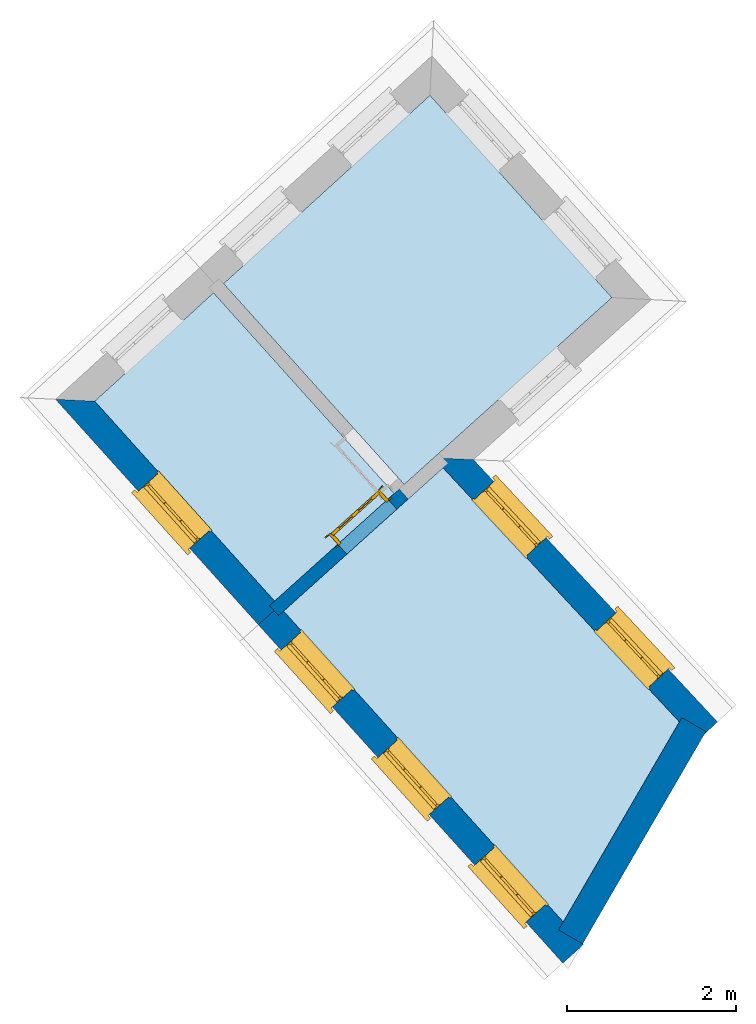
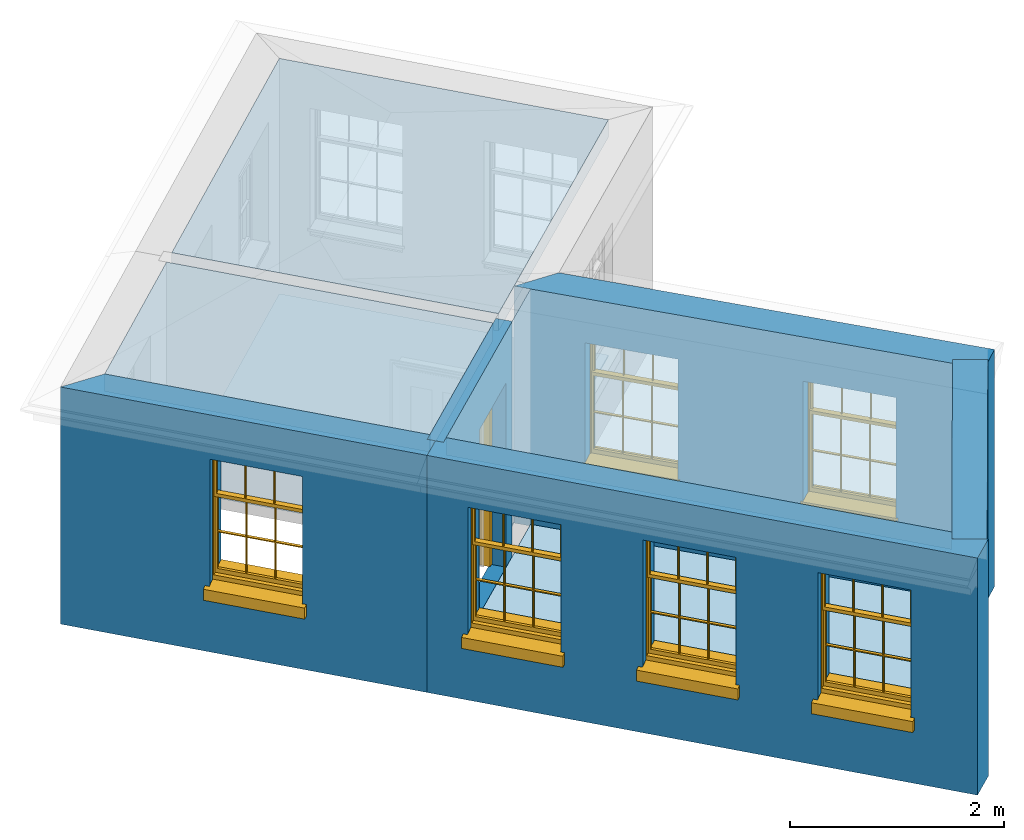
# One storey, part 1 of 3: 6 windows, 5 slabs, 5 walls, 1 door, 7 openings.
"""IFC4 building model written with IfcOpenShell, lengths in metres."""

from ifc_helpers import new_model, si_unit, frame, origin, origin_with_axes, place, context, subcontext, project, spatial, polyline, outline, extrude, faceted_brep, source, transform, mapped, material, layer, layer_set, layer_usage, type_object, type_shapes, element, fill, save


model = new_model("IFC4")

# Units and contexts
model_context = context("Model", 3, world=origin_with_axes())
body_context = subcontext(model_context, "Body", "Model", "MODEL_VIEW")
ifc_project = project(units=[si_unit("PLANEANGLEUNIT", "RADIAN"), si_unit("MASSUNIT", "GRAM", prefix="KILO"), si_unit("FORCEUNIT", "NEWTON", prefix="KILO"), si_unit("LENGTHUNIT", "METRE"), si_unit("AREAUNIT", "SQUARE_METRE"), si_unit("VOLUMEUNIT", "CUBIC_METRE")], contexts=[model_context, model_context])

# Sites, building, storey
site_1_placement = place(None, origin_with_axes())
site_1 = spatial("IfcSite", under=ifc_project, at=site_1_placement, Name="Tamar")
site_2_placement = place(site_1_placement, origin_with_axes())
site_2 = spatial("IfcSite", under=site_1, at=site_2_placement, Name="Site plot-7", CompositionType="ELEMENT")
building_placement = place(None, origin_with_axes())
building = spatial("IfcBuilding", under=site_2, at=building_placement, Name="Building plot-7", CompositionType="ELEMENT")
storey_placement = place(None, frame((0.0, 0.0, 31.85), z_axis=(0.0, 0.0, 1.0), x_axis=(1.0, 0.0, 0.0)))
storey = spatial("IfcBuildingStorey", under=building, at=storey_placement, Name="plot-7 2", CompositionType="ELEMENT", Elevation=31.85)

# Slabs
slab_1_placement = place(storey_placement, frame((241.718541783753, 284.757150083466, 2.5)))
element("IfcSlab", 1, at=slab_1_placement, inside=storey, Name="My Slab", ObjectType="Slab", PredefinedType="FLOOR", context=body_context, shape_type="SweptSolid", body=[
    extrude(outline(polyline([(0.0, 0.0), (1.41896853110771, 1.27668817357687), (-0.724110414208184, 3.6586022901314), (-2.13398761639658, 2.37180960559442), (0.0, 0.0)])), origin_with_axes(), (0.0, 0.0, 1.0), 0.2),
])
slab_2_placement = place(storey_placement, frame((245.14349583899, 280.950502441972, 2.5)))
element("IfcSlab", 2, at=slab_2_placement, inside=storey, Name="My Slab", ObjectType="Slab", PredefinedType="FLOOR", context=body_context, shape_type="SweptSolid", body=[
    extrude(outline(polyline([(0.0, 0.0), (1.37769853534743, 2.37319042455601), (-1.42731034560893, 5.38875801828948), (-3.31793745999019, 3.68770459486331), (0.0, 0.0)])), origin_with_axes(), (0.0, 0.0, 1.0), 0.2),
])
slab_3_placement = place(storey_placement, frame((245.14349583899, 280.950502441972, 0.0)))
element("IfcSlab", 3, at=slab_3_placement, inside=storey, Name="My Slab", ObjectType="Slab", PredefinedType="FLOOR", context=body_context, shape_type="SweptSolid", body=[
    extrude(outline(polyline([(0.0, 0.0), (1.37769853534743, 2.37319042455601), (-1.42731034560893, 5.38875801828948), (-3.31793745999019, 3.68770459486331), (0.0, 0.0)])), origin_with_axes(), (0.0, 0.0, 1.0), 0.02),
])
slab_4_placement = place(storey_placement, frame((243.256453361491, 286.14085485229, 2.5)))
element("IfcSlab", 4, at=slab_4_placement, inside=storey, Name="My Slab", ObjectType="Slab", PredefinedType="FLOOR", context=body_context, shape_type="SweptSolid", body=[
    extrude(outline(polyline([(0.0, 0.0), (2.46520785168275, 2.21802079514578), (0.30557225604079, 4.61833671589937), (-2.14384101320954, 2.3827611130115), (0.0, 0.0)])), origin_with_axes(), (0.0, 0.0, 1.0), 0.2),
])
slab_5_placement = place(storey_placement, frame((243.256453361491, 286.14085485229, 0.0)))
element("IfcSlab", 5, at=slab_5_placement, inside=storey, Name="My Slab", ObjectType="Slab", PredefinedType="FLOOR", context=body_context, shape_type="SweptSolid", body=[
    extrude(outline(polyline([(0.0, 0.0), (2.46520785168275, 2.21802079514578), (0.30557225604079, 4.61833671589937), (-2.14384101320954, 2.3827611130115), (0.0, 0.0)])), origin_with_axes(), (0.0, 0.0, 1.0), 0.02),
])

# Wall, openings, windows
ifc_material_1 = material(Name="Masonry")
ifc_layer_1 = layer(ifc_material_1, 0.33, ventilated=False)
ifc_layer_set_1 = layer_set([ifc_layer_1], Name="exterior_0.08_0.25")
ifc_layer_usage_1 = layer_usage(ifc_layer_set_1, "AXIS2", "POSITIVE", -0.25)
wall_type_1 = type_object("IfcWallType", Name="exterior_0.08_0.25", PredefinedType="SOLIDWALL", material=ifc_layer_set_1)
wall_1_placement = place(storey_placement, frame((246.620136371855, 283.334783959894, 0.0), z_axis=(0.0, 0.0, 1.0), x_axis=(-0.681081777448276, 0.732207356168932, 0.0)))
wall_1 = element("IfcWall", 6, at=wall_1_placement, inside=storey, type_object=wall_type_1, material=ifc_layer_usage_1, Name="exterior", context=body_context, shape_type="SweptSolid", body=[
    extrude(outline(polyline([(-0.250000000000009, 0.0799999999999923), (-0.249999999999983, -0.250000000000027), (4.00223478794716, -0.250000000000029), (4.33774979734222, 0.0799999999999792), (-0.250000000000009, 0.0799999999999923)])), origin_with_axes(), (0.0, 0.0, 1.0), 2.7),
])
opening_1_placement = place(wall_1_placement, frame((0.609103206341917, 0.0, 0.75)))
opening_1 = element("IfcOpeningElement", 7, at=opening_1_placement, cuts=wall_1, Name="My Opening", ObjectType="Opening", context=body_context, shape_type="SweptSolid", body=[
    extrude(outline(polyline([(0.0, -0.269999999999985), (0.910000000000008, -0.270000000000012), (0.909999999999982, 1.10000000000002), (-2.59792187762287e-14, 1.10000000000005), (0.0, -0.269999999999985)])), origin_with_axes(), (0.0, 0.0, 1.0), 1.445),
])
opening_2_placement = place(wall_1_placement, frame((2.73730961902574, 0.0, 0.75)))
opening_2 = element("IfcOpeningElement", 8, at=opening_2_placement, cuts=wall_1, Name="My Opening", ObjectType="Opening", context=body_context, shape_type="SweptSolid", body=[
    extrude(outline(polyline([(0.0, -0.270000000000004), (0.910000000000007, -0.270000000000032), (0.909999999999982, 1.1), (-2.57571741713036e-14, 1.10000000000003), (0.0, -0.270000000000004)])), origin_with_axes(), (0.0, 0.0, 1.0), 1.445),
])
window_type = type_object("IfcWindowType", Name="sash_shorter", PartitioningType="DOUBLE_PANEL_HORIZONTAL", PredefinedType="NOTDEFINED")
shared_shape_1 = source(origin(), body_context, "Body", "Brep", [
    faceted_brep([(0.876875, 0.145, 0.999097), (0.876875, 0.145, 1.411875), (0.9, 0.145, 1.435), (0.033125, 0.145, 1.411875), (0.033125, 0.145, 0.999097), (0.01, 0.145, 1.435), (0.033125, 0.115, 1.411875), (0.01, 0.115, 1.435), (0.033125, 0.115, 0.999097), (0.876875, 0.115, 1.411875), (0.876875, 0.115, 0.999097), (0.9, 0.115, 1.435), (0.033125, 0.145, 0.960972), (0.01, 0.145, 0.960972), (0.033125, 0.145, 0.548195), (0.876875, 0.145, 0.960972), (0.876875, 0.145, 0.548195), (0.9, 0.145, 0.960972), (0.876875, 0.145, 0.538195), (0.876875, 0.145, 0.125417), (0.9, 0.145, 0.077167), (0.033125, 0.145, 0.125417), (0.033125, 0.145, 0.538195), (0.01, 0.145, 0.077167), (0.9, 0.115, 0.960972), (0.01, 0.115, 0.960972), (-0.0425, 0.0, 0.01), (-0.0425, -0.05, 0.001667), (0.0, 0.0, 0.01), (0.9525, 0.0, 0.01), (0.91, 0.0, 0.01), (0.9525, -0.05, 0.001667), (-0.02, 0.33, 0.077167), (0.0, 0.33, 0.077167), (-0.02, 0.36, 0.077167), (0.0, 0.19, 0.077167), (0.01, 0.19, 0.077167), (0.91, 0.19, 0.077167), (0.91, 0.33, 0.077167), (0.9, 0.19, 0.077167), (0.93, 0.33, 0.077167), (0.93, 0.36, 0.077167), (0.01, 0.145, 0.999097), (0.01, 0.175, 0.999097), (0.9, 0.145, 0.999097), (0.9, 0.175, 0.999097), (0.876875, 0.175, 0.125417), (0.876875, 0.175, 0.538195), (0.9, 0.175, 0.077167), (0.876875, 0.175, 0.548195), (0.876875, 0.175, 0.960972), (0.033125, 0.175, 0.125417), (0.01, 0.175, 0.077167), (0.033125, 0.175, 0.538195), (0.033125, 0.175, 0.960972), (0.033125, 0.175, 0.548195), (-0.02, 0.33, 0.052167), (-0.02, 0.36, 0.052167), (0.93, 0.36, 0.052167), (0.93, 0.33, 0.052167), (0.91, 0.33, 0.052167), (0.0, 0.33, 0.052167), (0.91, 0.1, 0.026667), (0.0, 0.1, 0.026667), (-0.0425, -0.05, -0.123333), (0.9525, -0.05, -0.123333), (-0.0425, 0.0, -0.123333), (0.9525, 0.0, -0.123333), (0.01, 0.19, 1.435), (0.9, 0.19, 1.435), (0.0, 0.19, 1.445), (0.91, 0.19, 1.445), (0.01, 0.1, 0.077167), (0.9, 0.1, 0.077167), (0.592292, 0.145, 0.125417), (0.592292, 0.175, 0.125417), (0.317708, 0.175, 0.125417), (0.317708, 0.145, 0.125417), (0.592292, 0.145, 0.548195), (0.317708, 0.145, 0.548195), (0.317708, 0.145, 0.538195), (0.592292, 0.145, 0.538195), (0.592292, 0.175, 0.548195), (0.317708, 0.175, 0.548195), (0.602292, 0.175, 0.548195), (0.602292, 0.145, 0.548195), (0.317708, 0.175, 0.538195), (0.307708, 0.175, 0.125417), (0.307708, 0.175, 0.538195), (0.602292, 0.175, 0.538195), (0.602292, 0.175, 0.125417), (0.592292, 0.175, 0.538195), (0.307708, 0.175, 0.548195), (0.317708, 0.175, 0.960972), (0.307708, 0.175, 0.960972), (0.602292, 0.175, 0.960972), (0.592292, 0.175, 0.960972), (0.307708, 0.145, 0.538195), (0.307708, 0.145, 0.125417), (0.307708, 0.145, 0.548195), (0.307708, 0.145, 0.960972), (0.592292, 0.145, 0.960972), (0.317708, 0.145, 0.960972), (0.602292, 0.145, 0.960972), (0.602292, 0.145, 0.538195), (0.602292, 0.145, 0.125417), (0.317708, 0.115, 1.411875), (0.307708, 0.115, 1.411875), (0.307708, 0.115, 0.999097), (0.317708, 0.115, 0.999097), (0.602292, 0.115, 1.411875), (0.592292, 0.115, 1.411875), (0.592292, 0.115, 0.999097), (0.602292, 0.115, 0.999097), (0.317708, 0.145, 0.999097), (0.307708, 0.145, 0.999097), (0.307708, 0.145, 1.411875), (0.317708, 0.145, 1.411875), (0.602292, 0.145, 0.999097), (0.592292, 0.145, 0.999097), (0.592292, 0.145, 1.411875), (0.602292, 0.145, 1.411875), (0.91, 0.1, 1.445), (0.9, 0.1, 1.435), (0.01, 0.1, 1.435), (0.0, 0.1, 1.445), (0.91, 0.0, 0.0), (0.0, 0.0, 0.0), (0.91, 0.33, 0.0), (0.0, 0.33, 0.0)], [[[0, 1, 2]], [[3, 4, 5]], [[6, 7, 8]], [[9, 10, 11]], [[12, 13, 14]], [[15, 16, 17]], [[18, 19, 20]], [[21, 22, 23]], [[24, 15, 17]], [[13, 12, 25]], [[26, 27, 28]], [[29, 30, 31]], [[32, 33, 34]], [[35, 36, 33]], [[37, 38, 39]], [[40, 41, 38]], [[42, 4, 43]], [[44, 45, 0]], [[46, 47, 48]], [[49, 50, 45]], [[51, 52, 53]], [[54, 55, 43]], [[38, 33, 36, 39]], [[41, 34, 33, 38]], [[56, 32, 34, 57]], [[57, 34, 41, 58]], [[58, 41, 40, 59]], [[57, 58, 60, 61]], [[52, 48, 39, 36]], [[62, 63, 28, 30]], [[27, 31, 30, 28]], [[27, 64, 65, 31]], [[66, 67, 65, 64]], [[2, 5, 68, 69]], [[68, 70, 71, 69]], [[20, 23, 72, 73]], [[73, 72, 63, 62]], [[74, 75, 76, 77]], [[78, 79, 80, 81]], [[78, 82, 83, 79]], [[16, 49, 84, 85]], [[86, 76, 87, 88]], [[89, 90, 75, 91]], [[92, 88, 53, 55]], [[82, 91, 86, 83]], [[93, 83, 92, 94]], [[95, 84, 82, 96]], [[89, 84, 49, 47]], [[97, 88, 87, 98]], [[22, 53, 88, 97]], [[81, 91, 75, 74]], [[80, 86, 91, 81]], [[77, 76, 86, 80]], [[99, 92, 55, 14]], [[100, 94, 92, 99]], [[101, 96, 82, 78]], [[79, 83, 93, 102]], [[85, 84, 95, 103]], [[104, 89, 47, 18]], [[105, 90, 89, 104]], [[104, 18, 16, 85]], [[80, 97, 98, 77]], [[104, 81, 74, 105]], [[103, 101, 78, 85]], [[99, 14, 22, 97]], [[102, 100, 99, 79]], [[106, 107, 108, 109]], [[110, 111, 112, 113]], [[114, 115, 116, 117]], [[118, 119, 120, 121]], [[107, 116, 115, 108]], [[111, 120, 119, 112]], [[109, 114, 117, 106]], [[113, 118, 121, 110]], [[85, 78, 81, 104]], [[84, 89, 91, 82]], [[83, 86, 88, 92]], [[79, 99, 97, 80]], [[109, 112, 119, 114]], [[102, 93, 96, 101]], [[106, 117, 120, 111]], [[98, 87, 51, 21]], [[6, 3, 116, 107]], [[110, 121, 1, 9]], [[19, 46, 90, 105]], [[26, 66, 64, 27]], [[29, 31, 65, 67]], [[25, 24, 112, 109]], [[11, 7, 106, 111]], [[75, 48, 52, 76]], [[43, 45, 96, 93]], [[45, 43, 114, 119]], [[5, 2, 120, 117]], [[24, 25, 102, 101]], [[42, 5, 4]], [[2, 44, 0]], [[49, 45, 48, 47]], [[52, 43, 55, 53]], [[14, 13, 23, 22]], [[20, 17, 16, 18]], [[24, 11, 10]], [[25, 8, 7]], [[8, 4, 3, 6]], [[9, 1, 0, 10]], [[15, 50, 49, 16]], [[18, 47, 46, 19]], [[21, 51, 53, 22]], [[14, 55, 54, 12]], [[44, 2, 69, 45]], [[68, 5, 42, 43]], [[36, 35, 70, 68]], [[39, 69, 71, 37]], [[62, 122, 123, 73]], [[63, 72, 124, 125]], [[8, 108, 115, 4]], [[113, 10, 0, 118]], [[94, 100, 12, 54]], [[17, 20, 73, 24]], [[72, 23, 13, 25]], [[52, 36, 68, 43]], [[69, 39, 48, 45]], [[11, 24, 73, 123]], [[7, 124, 72, 25]], [[23, 77, 98]], [[98, 21, 23]], [[105, 74, 20]], [[20, 19, 105]], [[20, 74, 77, 23]], [[113, 112, 24]], [[24, 10, 113]], [[25, 109, 108]], [[108, 8, 25]], [[110, 9, 11]], [[11, 111, 110]], [[7, 6, 107]], [[107, 106, 7]], [[5, 117, 116]], [[116, 3, 5]], [[121, 120, 2]], [[2, 1, 121]], [[11, 123, 124, 7]], [[122, 125, 124, 123]], [[43, 93, 94]], [[94, 54, 43]], [[96, 45, 95]], [[50, 95, 45]], [[15, 103, 95, 50]], [[48, 75, 90]], [[90, 46, 48]], [[87, 76, 52]], [[52, 51, 87]], [[103, 15, 24]], [[24, 101, 103]], [[100, 102, 25]], [[25, 12, 100]], [[115, 114, 43]], [[43, 4, 115]], [[118, 0, 45]], [[45, 119, 118]], [[71, 70, 125, 122]], [[70, 35, 63, 125]], [[122, 62, 37, 71]], [[126, 67, 66, 127]], [[60, 58, 59]], [[38, 60, 59, 40]], [[61, 56, 57]], [[32, 56, 61, 33]], [[61, 60, 128, 129]], [[62, 60, 38, 37]], [[126, 128, 60, 62]], [[33, 61, 63, 35]], [[61, 129, 127, 63]], [[128, 126, 127, 129]], [[28, 127, 66, 26]], [[63, 127, 28]], [[29, 67, 126, 30]], [[30, 126, 62]]]),
])
type_shapes(window_type, [shared_shape_1])
window_1_placement = place(storey_placement, frame((246.402983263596, 283.964665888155, 0.75), z_axis=(0.0, 0.0, 1.0), x_axis=(-0.619784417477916, 0.666308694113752, 0.0)))
window_1 = element("IfcWindow", 9, at=window_1_placement, inside=storey, type_object=window_type, Name="bedroom outside window", OverallHeight=1.445, OverallWidth=0.91, context=body_context, shape_type="MappedRepresentation", body=[
    mapped(shared_shape_1, transform((0.0, 0.0, 0.0), scale=1.0)),
])
fill(opening_1, window_1)
window_2_placement = place(storey_placement, frame((244.953500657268, 285.522954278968, 0.75), z_axis=(0.0, 0.0, 1.0), x_axis=(-0.619784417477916, 0.666308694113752, 0.0)))
window_2 = element("IfcWindow", 10, at=window_2_placement, inside=storey, type_object=window_type, Name="bedroom outside window", OverallHeight=1.445, OverallWidth=0.91, context=body_context, shape_type="MappedRepresentation", body=[
    mapped(shared_shape_1, transform((0.0, 0.0, 0.0), scale=1.0)),
])
fill(opening_2, window_2)

# Wall, opening, window
wall_2_placement = place(storey_placement, frame((239.471954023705, 287.134500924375, 0.0), z_axis=(0.0, 0.0, 1.0), x_axis=(0.668853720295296, -0.743394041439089, 0.0)))
wall_2 = element("IfcWall", 11, at=wall_2_placement, inside=storey, type_object=wall_type_1, material=ifc_layer_usage_1, Name="exterior", context=body_context, shape_type="SweptSolid", body=[
    extrude(outline(polyline([(0.0794323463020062, 0.0799999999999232), (-0.248226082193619, -0.250000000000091), (3.34994703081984, -0.250000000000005), (3.34994703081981, 0.0800000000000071), (0.0794323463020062, 0.0799999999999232)])), origin_with_axes(), (0.0, 0.0, 1.0), 2.7),
])
opening_3_placement = place(wall_2_placement, frame((1.21997351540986, 0.0, 0.75)))
opening_3 = element("IfcOpeningElement", 12, at=opening_3_placement, cuts=wall_2, Name="My Opening", ObjectType="Opening", context=body_context, shape_type="SweptSolid", body=[
    extrude(outline(polyline([(0.0, -0.269999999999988), (0.910000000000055, -0.27), (0.910000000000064, 1.09999999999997), (9.32587340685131e-15, 1.09999999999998), (0.0, -0.269999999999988)])), origin_with_axes(), (0.0, 0.0, 1.0), 1.445),
])
window_3_placement = place(storey_placement, frame((240.08722145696, 286.046989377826, 0.75), z_axis=(0.0, 0.0, 1.0), x_axis=(0.608656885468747, -0.67648857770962, 0.0)))
window_3 = element("IfcWindow", 13, at=window_3_placement, inside=storey, type_object=window_type, Name="circulation outside window", OverallHeight=1.445, OverallWidth=0.91, context=body_context, shape_type="MappedRepresentation", body=[
    mapped(shared_shape_1, transform((0.0, 0.0, 0.0), scale=1.0)),
])
fill(opening_3, window_3)

# Wall, openings, windows
wall_3_placement = place(storey_placement, frame((241.712578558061, 284.644170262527, 0.0), z_axis=(0.0, 0.0, 1.0), x_axis=(0.66885372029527, -0.743394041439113, 0.0)))
wall_3 = element("IfcWall", 14, at=wall_3_placement, inside=storey, type_object=wall_type_1, material=ifc_layer_usage_1, Name="exterior", context=body_context, shape_type="SweptSolid", body=[
    extrude(outline(polyline([(-1.40638475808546e-14, 0.080000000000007), (3.03741866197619e-14, -0.250000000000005), (5.40051106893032, -0.250000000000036), (5.40051106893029, 0.0799999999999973), (-1.40638475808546e-14, 0.080000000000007)])), origin_with_axes(), (0.0, 0.0, 1.0), 2.7),
])
opening_4_placement = place(wall_3_placement, frame((0.40341851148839, 0.0, 0.75)))
opening_4 = element("IfcOpeningElement", 15, at=opening_4_placement, cuts=wall_3, Name="My Opening", ObjectType="Opening", context=body_context, shape_type="SweptSolid", body=[
    extrude(outline(polyline([(0.0, -0.269999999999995), (0.909999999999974, -0.269999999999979), (0.909999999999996, 1.09999999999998), (2.18713935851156e-14, 1.09999999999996), (0.0, -0.269999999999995)])), origin_with_axes(), (0.0, 0.0, 1.0), 1.445),
])
opening_5_placement = place(wall_3_placement, frame((2.12025553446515, 0.0, 0.75)))
opening_5 = element("IfcOpeningElement", 16, at=opening_5_placement, cuts=wall_3, Name="My Opening", ObjectType="Opening", context=body_context, shape_type="SweptSolid", body=[
    extrude(outline(polyline([(0.0, -0.270000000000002), (0.909999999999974, -0.269999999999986), (0.909999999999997, 1.09999999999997), (2.17603712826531e-14, 1.09999999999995), (0.0, -0.270000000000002)])), origin_with_axes(), (0.0, 0.0, 1.0), 1.445),
])
opening_6_placement = place(wall_3_placement, frame((3.83709255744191, 0.0, 0.75)))
opening_6 = element("IfcOpeningElement", 17, at=opening_6_placement, cuts=wall_3, Name="My Opening", ObjectType="Opening", context=body_context, shape_type="SweptSolid", body=[
    extrude(outline(polyline([(0.0, -0.270000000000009), (0.909999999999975, -0.269999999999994), (0.909999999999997, 1.09999999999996), (2.1316282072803e-14, 1.09999999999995), (0.0, -0.270000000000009)])), origin_with_axes(), (0.0, 0.0, 1.0), 1.445),
])
window_4_placement = place(storey_placement, frame((241.781690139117, 284.163680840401, 0.75), z_axis=(0.0, 0.0, 1.0), x_axis=(0.60865688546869, -0.676488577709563, 0.0)))
window_4 = element("IfcWindow", 18, at=window_4_placement, inside=storey, type_object=window_type, Name="bedroom outside window", OverallHeight=1.445, OverallWidth=0.91, context=body_context, shape_type="MappedRepresentation", body=[
    mapped(shared_shape_1, transform((0.0, 0.0, 0.0), scale=1.0)),
])
fill(opening_4, window_4)
window_5_placement = place(storey_placement, frame((242.930002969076, 282.887394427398, 0.75), z_axis=(0.0, 0.0, 1.0), x_axis=(0.60865688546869, -0.676488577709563, 0.0)))
window_5 = element("IfcWindow", 19, at=window_5_placement, inside=storey, type_object=window_type, Name="bedroom outside window", OverallHeight=1.445, OverallWidth=0.91, context=body_context, shape_type="MappedRepresentation", body=[
    mapped(shared_shape_1, transform((0.0, 0.0, 0.0), scale=1.0)),
])
fill(opening_5, window_5)
window_6_placement = place(storey_placement, frame((244.078315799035, 281.611108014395, 0.75), z_axis=(0.0, 0.0, 1.0), x_axis=(0.60865688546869, -0.676488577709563, 0.0)))
window_6 = element("IfcWindow", 20, at=window_6_placement, inside=storey, type_object=window_type, Name="bedroom outside window", OverallHeight=1.445, OverallWidth=0.91, context=body_context, shape_type="MappedRepresentation", body=[
    mapped(shared_shape_1, transform((0.0, 0.0, 0.0), scale=1.0)),
])
fill(opening_6, window_6)

# Wall
ifc_material_2 = material(Name="Masonry")
ifc_layer_2 = layer(ifc_material_2, 0.33, ventilated=False)
ifc_layer_set_2 = layer_set([ifc_layer_2], Name="party_0.08_0.25")
ifc_layer_usage_2 = layer_usage(ifc_layer_set_2, "AXIS2", "POSITIVE", -0.25)
wall_type_2 = type_object("IfcWallType", Name="party_0.08_0.25", PredefinedType="SOLIDWALL", material=ifc_layer_set_2)
wall_4_placement = place(storey_placement, frame((245.157517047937, 280.815311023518, 0.0), z_axis=(0.0, 0.0, 1.0), x_axis=(0.502058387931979, 0.864833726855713, 0.0)))
element("IfcWall", 21, at=wall_4_placement, inside=storey, type_object=wall_type_2, material=ifc_layer_usage_2, Name="party", context=body_context, shape_type="SweptSolid", body=[
    extrude(outline(polyline([(1.4233516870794e-14, 0.0800000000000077), (-8.3668757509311e-15, -0.250000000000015), (2.91324546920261, -0.250000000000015), (2.91324546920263, 0.0800000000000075), (1.4233516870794e-14, 0.0800000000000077)])), origin_with_axes(), (0.0, 0.0, 1.0), 2.7),
])

# Wall, opening, door
ifc_material_3 = material(Name="Masonry")
ifc_layer_3 = layer(ifc_material_3, 0.16, ventilated=False)
ifc_layer_set_3 = layer_set([ifc_layer_3], Name="interior_0.08_0.08")
ifc_layer_usage_3 = layer_usage(ifc_layer_set_3, "AXIS2", "POSITIVE", -0.08)
wall_type_3 = type_object("IfcWallType", Name="interior_0.08_0.08", PredefinedType="SOLIDWALL", material=ifc_layer_set_3)
wall_5_placement = place(storey_placement, frame((241.712578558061, 284.644170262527, 0.0), z_axis=(0.0, 0.0, 1.0), x_axis=(0.743394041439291, 0.668853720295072, 0.0)))
wall_5 = element("IfcWall", 22, at=wall_5_placement, inside=storey, type_object=wall_type_3, material=ifc_layer_usage_3, Name="interior", context=body_context, shape_type="SweptSolid", body=[
    extrude(outline(polyline([(4.80106205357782e-15, 0.0800000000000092), (-4.80902844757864e-15, -0.0800000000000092), (2.0687703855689, -0.0800000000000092), (2.06877038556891, 0.0800000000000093), (4.80106205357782e-15, 0.0800000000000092)])), origin_with_axes(), (0.0, 0.0, 1.0), 2.7),
])
opening_7_placement = place(wall_5_placement, frame((1.08877038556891, 0.0, 0.0199999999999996)))
opening_7 = element("IfcOpeningElement", 23, at=opening_7_placement, cuts=wall_5, Name="My Opening", ObjectType="Opening", context=body_context, shape_type="SweptSolid", body=[
    extrude(outline(polyline([(0.0, -0.0999999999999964), (0.799999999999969, -0.100000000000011), (0.799999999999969, 1.09999999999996), (4.44089209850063e-16, 1.09999999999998), (0.0, -0.0999999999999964)])), origin_with_axes(), (0.0, 0.0, 1.0), 2.1),
])
door_type = type_object("IfcDoorType", Name="door_inside", OperationType="SINGLE_SWING_LEFT", PredefinedType="NOTDEFINED")
shared_shape_2 = source(origin(), body_context, "Body", "Brep", [
    faceted_brep([(0.773, 0.33, 1.895), (0.66, 0.33, 1.895), (0.66, 0.33, 2.073), (0.773, 0.33, 2.073), (0.773, 0.33, 0.82), (0.66, 0.33, 0.82), (0.45, 0.33, 1.895), (0.45, 0.33, 2.073), (0.773, 0.33, 0.62), (0.66, 0.33, 0.62), (0.66, 0.315, 0.82), (0.66, 0.315, 1.895), (0.45, 0.315, 1.895), (0.35, 0.33, 1.895), (0.35, 0.33, 2.073), (0.773, 0.33, 0.225), (0.66, 0.33, 0.225), (0.45, 0.33, 0.62), (0.45, 0.33, 0.82), (0.45, 0.315, 0.82), (0.35, 0.33, 0.82), (0.14, 0.33, 2.073), (0.14, 0.33, 1.895), (0.773, 0.33, 0.0), (0.66, 0.33, 0.0), (0.66, 0.315, 0.225), (0.66, 0.315, 0.62), (0.45, 0.315, 0.62), (0.35, 0.33, 0.62), (0.35, 0.315, 0.82), (0.35, 0.315, 1.895), (0.14, 0.315, 1.895), (0.027, 0.33, 2.073), (0.027, 0.33, 1.895), (0.773, 0.292, 0.0), (0.66, 0.292, 0.0), (0.45, 0.33, 0.0), (0.45, 0.33, 0.225), (0.45, 0.315, 0.225), (0.35, 0.33, 0.225), (0.14, 0.33, 0.82), (0.14, 0.33, 0.62), (0.14, 0.315, 0.82), (0.027, 0.33, 0.82), (0.773, 0.292, 0.225), (0.66, 0.292, 0.225), (0.45, 0.292, 0.0), (0.35, 0.33, 0.0), (0.35, 0.315, 0.225), (0.35, 0.315, 0.62), (0.14, 0.315, 0.62), (0.027, 0.33, 0.62), (0.773, 0.292, 0.62), (0.66, 0.292, 0.62), (0.45, 0.292, 0.225), (0.35, 0.292, 0.0), (0.14, 0.33, 0.225), (0.14, 0.33, 0.0), (0.14, 0.315, 0.225), (0.027, 0.33, 0.225), (0.773, 0.292, 0.82), (0.66, 0.292, 0.82), (0.66, 0.307, 0.62), (0.66, 0.307, 0.225), (0.45, 0.307, 0.225), (0.35, 0.292, 0.225), (0.14, 0.292, 0.0), (0.027, 0.33, 0.0), (0.773, 0.292, 1.895), (0.66, 0.292, 1.895), (0.45, 0.292, 0.62), (0.45, 0.292, 0.82), (0.45, 0.307, 0.62), (0.35, 0.292, 0.62), (0.14, 0.292, 0.225), (0.027, 0.292, 0.0), (0.773, 0.292, 2.073), (0.66, 0.292, 2.073), (0.66, 0.307, 1.895), (0.66, 0.307, 0.82), (0.45, 0.307, 0.82), (0.35, 0.292, 0.82), (0.35, 0.307, 0.62), (0.35, 0.307, 0.225), (0.14, 0.307, 0.225), (0.027, 0.292, 0.225), (0.45, 0.292, 1.895), (0.45, 0.292, 2.073), (0.45, 0.307, 1.895), (0.35, 0.292, 1.895), (0.14, 0.292, 0.82), (0.14, 0.292, 0.62), (0.14, 0.307, 0.62), (0.027, 0.292, 0.62), (0.35, 0.292, 2.073), (0.35, 0.307, 1.895), (0.35, 0.307, 0.82), (0.14, 0.307, 0.82), (0.027, 0.292, 0.82), (0.14, 0.292, 2.073), (0.14, 0.292, 1.895), (0.14, 0.307, 1.895), (0.027, 0.292, 1.895), (0.027, 0.292, 2.073), (0.02, 0.335, 0.0), (0.005, 0.34, 0.0), (0.005, 0.34, 2.095), (0.02, 0.335, 2.08), (0.02, 0.33, 0.0), (0.0, 0.335, 0.0), (0.0, 0.335, 2.1), (0.795, 0.34, 2.095), (0.78, 0.335, 2.08), (0.02, 0.33, 2.08), (0.0, 0.33, 0.0), (-0.032, 0.345, 0.0), (-0.032, 0.345, 2.132), (0.8, 0.335, 2.1), (0.795, 0.34, 0.0), (0.78, 0.335, 0.0), (0.78, 0.33, 2.08), (0.04, 0.29, 0.0), (0.025, 0.29, 0.0), (0.025, 0.29, 2.075), (0.04, 0.29, 2.06), (-0.04, 0.34, 0.0), (-0.04, 0.34, 2.14), (0.832, 0.345, 2.132), (0.8, 0.335, 0.0), (0.78, 0.33, 0.0), (0.8, 0.33, 0.0), (0.86, 0.33, 0.0), (0.86, 0.33, 2.16), (0.8, 0.33, 2.1), (-0.06, 0.33, 2.16), (0.0, 0.33, 2.1), (-0.06, 0.33, 0.0), (-0.04, 0.345, 0.0), (-0.04, 0.345, 2.14), (0.84, 0.34, 2.14), (0.832, 0.345, 0.0), (0.84, 0.34, 0.0), (0.86, 0.345, 0.0), (0.86, 0.345, 2.16), (-0.06, 0.345, 2.16), (-0.06, 0.345, 0.0), (0.84, 0.345, 0.0), (0.84, 0.345, 2.14), (-0.025, 0.155, 0.0), (-0.025, 0.16, 0.0), (-0.025, 0.16, 2.125), (-0.025, 0.155, 2.125), (-0.017, 0.155, 0.0), (-0.017, 0.155, 2.117), (0.825, 0.16, 2.125), (0.825, 0.155, 2.125), (0.825, 0.155, 0.0), (0.845, 0.155, 0.0), (-0.045, 0.155, 2.145), (-0.045, 0.155, 0.0), (0.845, 0.155, 2.145), (0.015, 0.165, 0.0), (0.015, 0.165, 2.085), (0.817, 0.155, 2.117), (0.825, 0.16, 0.0), (0.845, 0.17, 0.0), (0.845, 0.17, 2.145), (-0.045, 0.17, 2.145), (-0.045, 0.17, 0.0), (0.02, 0.16, 0.0), (0.02, 0.16, 2.08), (0.785, 0.165, 2.085), (0.817, 0.155, 0.0), (0.8, 0.17, 0.0), (0.8, 0.17, 2.1), (0.0, 0.17, 2.1), (0.0, 0.17, 0.0), (0.035, 0.165, 0.0), (0.035, 0.165, 2.065), (0.78, 0.16, 2.08), (0.785, 0.165, 0.0), (0.775, 0.29, 2.075), (0.76, 0.29, 2.06), (0.035, 0.17, 2.065), (0.035, 0.17, 0.0), (0.765, 0.165, 2.065), (0.78, 0.16, 0.0), (0.765, 0.17, 0.0), (0.765, 0.17, 2.065), (0.765, 0.165, 0.0), (0.04, 0.17, 2.06), (0.04, 0.17, 0.0), (0.76, 0.17, 2.06), (0.76, 0.17, 0.0), (0.76, 0.29, 0.0), (0.775, 0.29, 0.0), (0.025, 0.33, 0.0), (0.025, 0.33, 2.075), (0.775, 0.33, 0.0), (0.775, 0.33, 2.075)], [[[0, 1, 2, 3]], [[1, 0, 4, 5]], [[1, 6, 7, 2]], [[8, 9, 5, 4]], [[1, 5, 10, 11]], [[6, 1, 11, 12]], [[6, 13, 14, 7]], [[15, 16, 9, 8]], [[9, 17, 18, 5]], [[5, 18, 19, 10]], [[10, 19, 12, 11]], [[18, 6, 12, 19]], [[18, 20, 13, 6]], [[21, 14, 13, 22]], [[23, 24, 16, 15]], [[9, 16, 25, 26]], [[17, 9, 26, 27]], [[17, 28, 20, 18]], [[13, 20, 29, 30]], [[22, 13, 30, 31]], [[32, 21, 22, 33]], [[34, 35, 24, 23]], [[24, 36, 37, 16]], [[16, 37, 38, 25]], [[25, 38, 27, 26]], [[37, 17, 27, 38]], [[37, 39, 28, 17]], [[40, 20, 28, 41]], [[20, 40, 42, 29]], [[31, 30, 29, 42]], [[40, 22, 31, 42]], [[33, 22, 40, 43]], [[35, 34, 44, 45]], [[35, 46, 36, 24]], [[36, 47, 39, 37]], [[28, 39, 48, 49]], [[41, 28, 49, 50]], [[43, 40, 41, 51]], [[45, 44, 52, 53]], [[46, 35, 45, 54]], [[46, 55, 47, 36]], [[56, 39, 47, 57]], [[39, 56, 58, 48]], [[50, 49, 48, 58]], [[56, 41, 50, 58]], [[51, 41, 56, 59]], [[53, 52, 60, 61]], [[45, 53, 62, 63]], [[54, 45, 63, 64]], [[55, 46, 54, 65]], [[55, 66, 57, 47]], [[59, 56, 57, 67]], [[61, 60, 68, 69]], [[70, 53, 61, 71]], [[53, 70, 72, 62]], [[72, 64, 63, 62]], [[70, 54, 64, 72]], [[65, 54, 70, 73]], [[65, 74, 66, 55]], [[67, 57, 66, 75]], [[69, 68, 76, 77]], [[61, 69, 78, 79]], [[71, 61, 79, 80]], [[73, 70, 71, 81]], [[65, 73, 82, 83]], [[74, 65, 83, 84]], [[74, 85, 75, 66]], [[86, 69, 77, 87]], [[69, 86, 88, 78]], [[88, 80, 79, 78]], [[86, 71, 80, 88]], [[81, 71, 86, 89]], [[73, 81, 90, 91]], [[73, 91, 92, 82]], [[83, 82, 92, 84]], [[91, 74, 84, 92]], [[91, 93, 85, 74]], [[89, 86, 87, 94]], [[81, 89, 95, 96]], [[90, 81, 96, 97]], [[90, 98, 93, 91]], [[94, 99, 100, 89]], [[89, 100, 101, 95]], [[101, 97, 96, 95]], [[100, 90, 97, 101]], [[100, 102, 98, 90]], [[99, 103, 102, 100]], [[32, 103, 99, 21]], [[102, 103, 32, 33]], [[98, 102, 33, 43]], [[21, 99, 94, 14]], [[94, 87, 7, 14]], [[7, 87, 77, 2]], [[76, 3, 2, 77]], [[43, 51, 93, 98]], [[51, 59, 85, 93]], [[67, 75, 85, 59]], [[34, 23, 15, 44]], [[44, 15, 8, 52]], [[52, 8, 4, 60]], [[0, 68, 60, 4]], [[0, 3, 76, 68]], [[104, 105, 106, 107]], [[104, 108, 109, 105]], [[105, 109, 110, 106]], [[107, 106, 111, 112]], [[107, 113, 108, 104]], [[114, 109, 108]], [[109, 115, 116, 110]], [[106, 110, 117, 111]], [[112, 111, 118, 119]], [[113, 107, 112, 120]], [[121, 122, 123, 124]], [[115, 109, 114, 125]], [[115, 125, 126, 116]], [[110, 116, 127, 117]], [[111, 117, 128, 118]], [[118, 128, 129, 119]], [[120, 112, 119, 129]], [[130, 129, 128]], [[130, 131, 132, 133]], [[133, 132, 134, 135]], [[135, 134, 136, 114]], [[136, 125, 114]], [[125, 137, 138, 126]], [[116, 126, 139, 127]], [[117, 127, 140, 128]], [[141, 130, 128, 140]], [[131, 130, 141]], [[131, 142, 143, 132]], [[132, 143, 144, 134]], [[134, 144, 145, 136]], [[137, 125, 136, 145]], [[143, 142, 146]], [[143, 146, 147]], [[137, 145, 144]], [[143, 147, 138]], [[138, 137, 144]], [[143, 138, 144]], [[126, 138, 147, 139]], [[127, 139, 141, 140]], [[142, 131, 141, 146]], [[139, 147, 146, 141]], [[148, 149, 150, 151]], [[149, 152, 153, 150]], [[151, 150, 154, 155]], [[155, 156, 157]], [[158, 159, 148]], [[158, 148, 151]], [[155, 157, 160]], [[158, 151, 155]], [[155, 160, 158]], [[152, 161, 162, 153]], [[150, 153, 163, 154]], [[155, 154, 164, 156]], [[156, 164, 165, 157]], [[157, 165, 166, 160]], [[160, 166, 167, 158]], [[158, 167, 168, 159]], [[161, 169, 170, 162]], [[153, 162, 171, 163]], [[154, 163, 172, 164]], [[165, 164, 173]], [[165, 173, 174, 166]], [[166, 174, 175, 167]], [[167, 175, 176, 168]], [[169, 177, 178, 170]], [[162, 170, 179, 171]], [[163, 171, 180, 172]], [[172, 180, 173, 164]], [[124, 123, 181, 182]], [[183, 178, 177, 184]], [[170, 178, 185, 179]], [[171, 179, 186, 180]], [[187, 173, 180]], [[185, 188, 187, 189]], [[188, 185, 178, 183]], [[179, 185, 189, 186]], [[189, 187, 180, 186]], [[190, 183, 184, 191]], [[192, 188, 183, 190]], [[191, 184, 122, 121]], [[124, 190, 191, 121]], [[193, 187, 188, 192]], [[182, 192, 190, 124]], [[184, 176, 122]], [[194, 195, 187, 193]], [[192, 182, 194, 193]], [[161, 176, 184]], [[114, 108, 122, 176]], [[173, 187, 195]], [[152, 149, 176, 161]], [[169, 161, 184, 177]], [[196, 122, 108]], [[176, 175, 135, 114]], [[173, 195, 129, 130]], [[176, 149, 168]], [[123, 122, 196, 197]], [[196, 108, 113, 197]], [[175, 174, 133, 135]], [[198, 129, 195]], [[133, 174, 173, 130]], [[159, 168, 149, 148]], [[181, 123, 197, 199]], [[197, 113, 120, 199]], [[199, 120, 129, 198]], [[195, 181, 199, 198]], [[195, 194, 182, 181]]]),
])
type_shapes(door_type, [shared_shape_2])
door_placement = place(storey_placement, frame((242.588849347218, 285.298058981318, 0.0199999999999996), z_axis=(0.0, 0.0, 1.0), x_axis=(0.594715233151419, 0.535082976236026, 0.0)))
door = element("IfcDoor", 24, at=door_placement, inside=storey, type_object=door_type, Name="bedroom inside door", OverallHeight=2.1, OverallWidth=0.8, context=body_context, shape_type="MappedRepresentation", body=[
    mapped(shared_shape_2, transform((0.0, 0.0, 0.0), scale=1.0)),
])
fill(opening_7, door)

save(model, "model.ifc")
